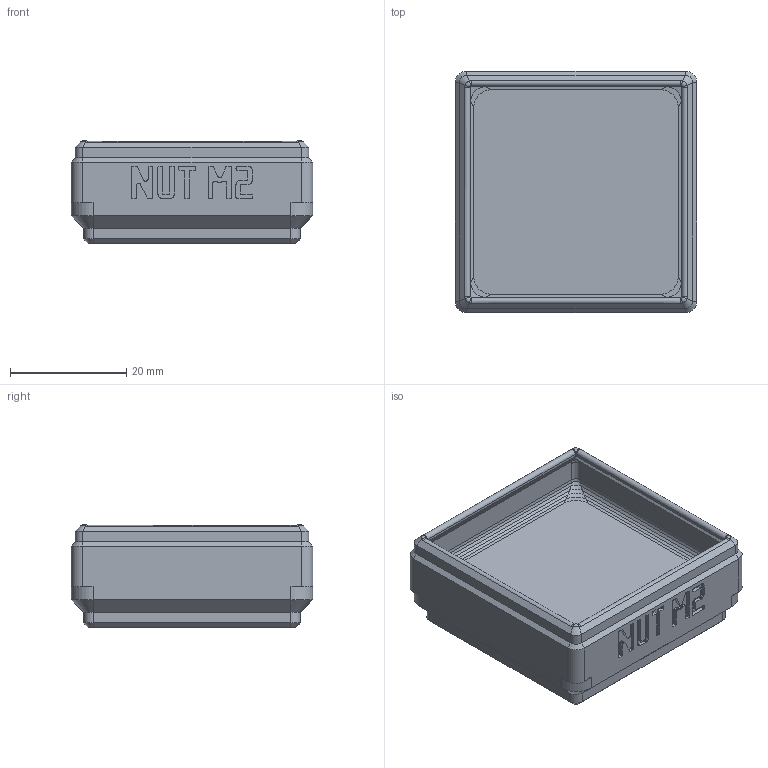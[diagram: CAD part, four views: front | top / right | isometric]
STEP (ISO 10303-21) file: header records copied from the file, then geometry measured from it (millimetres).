
FILE_DESCRIPTION(('Open CASCADE Model'),'2;1');
FILE_NAME('Open CASCADE Shape Model','2026-11-03T14:04:36',('Author'),( 'Open CASCADE'),'Open CASCADE STEP processor 8.0','build123d', 'Unknown');
FILE_SCHEMA(('AUTOMOTIVE_DESIGN { 1 0 10303 214 1 1 1 1 }'));
Length unit declared in the file: millimetre
Products named in the file (1): SOLID
Bounding box: 41.5 x 41.5 x 17.7 mm (x, y, z)
Volume: 11837.9 mm3; surface area: 10752.6 mm2
Topology: 1 solids, 2 shells, 645 faces, 1769 edges, 1134 vertices
Faces by surface type: plane 509, bspline 92, cylinder 32, cone 12
Entity records: 46684 total; most frequent: CARTESIAN_POINT 12159, DIRECTION 6019, LINE 4711, VECTOR 4711, ORIENTED_EDGE 3538, PCURVE 3538, DEFINITIONAL_REPRESENTATION 3538, EDGE_CURVE 1769
